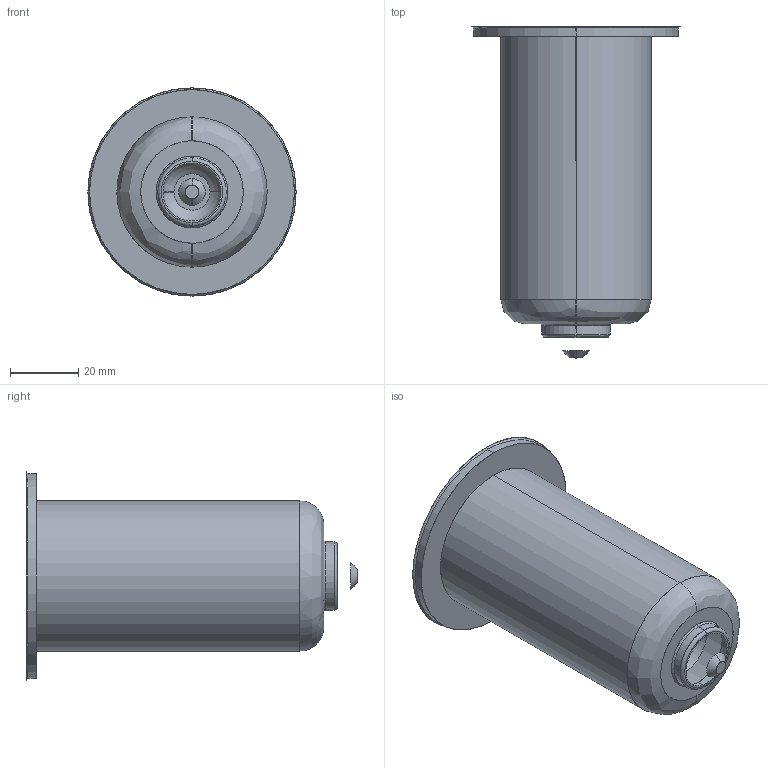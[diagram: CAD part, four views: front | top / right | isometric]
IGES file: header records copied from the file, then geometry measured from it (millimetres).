
Start section: SolidWorks IGES file using analytic representation for surfaces
Global section: file name: C:\Documents and Settings\ws-20\Desktop\TEM\Sede UGEP6004-M-A C-94 L-119 Ød-4.0.IGS; native system: SolidWorks 2012; preprocessor: SolidWorks 2012; author: ws-20; date: 120427.103152; units: millimetre
Bounding box: 61 x 97.24 x 61 mm (x, y, z)
Surface area: 17895.9 mm2 (no closed solid volume)
Topology: 0 solids, 0 shells, 25 faces, 468 edges, 468 vertices
Faces by surface type: revolution 16, bspline 9
